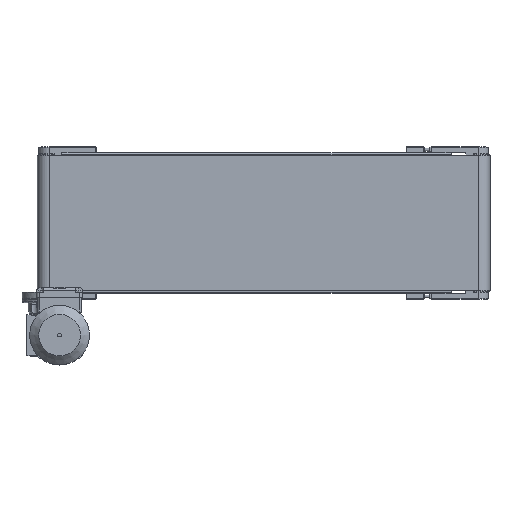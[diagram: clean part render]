
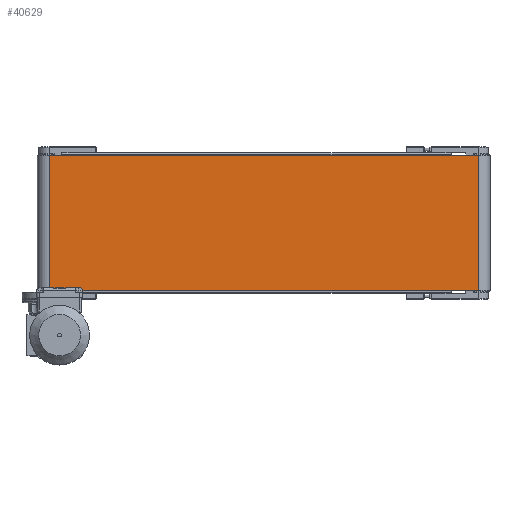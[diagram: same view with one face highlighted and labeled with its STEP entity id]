
A CAD part, top view. The second image highlights one B-rep face of the part: STEP entity #40629.
In plain terms, the highlighted planar face has unit normal (0, 0, 1).
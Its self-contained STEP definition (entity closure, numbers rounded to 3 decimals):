
#2281 = CARTESIAN_POINT ( 'NONE',  ( 974., 0., 26. ) ) ;
#4928 = CARTESIAN_POINT ( 'NONE',  ( 26., 0., 26. ) ) ;
#7820 = EDGE_CURVE ( 'NONE', #37936, #18661, #47891, .T. ) ;
#7873 = DIRECTION ( 'NONE',  ( 0., 0., -1. ) ) ;
#12509 = DIRECTION ( 'NONE',  ( 0., -1., 0. ) ) ;
#12944 = DIRECTION ( 'NONE',  ( 0., -1., 0. ) ) ;
#12946 = EDGE_CURVE ( 'NONE', #13431, #19254, #17529, .T. ) ;
#13181 = VECTOR ( 'NONE', #12944, 1000. ) ;
#13431 = VERTEX_POINT ( 'NONE', #39325 ) ;
#17529 = LINE ( 'NONE', #32817, #13181 ) ;
#18068 = EDGE_LOOP ( 'NONE', ( #37403, #33035, #21475, #21286 ) ) ;
#18288 = DIRECTION ( 'NONE',  ( 1., 0., 0. ) ) ;
#18661 = VERTEX_POINT ( 'NONE', #19025 ) ;
#19025 = CARTESIAN_POINT ( 'NONE',  ( 26., 0., 26. ) ) ;
#19254 = VERTEX_POINT ( 'NONE', #2281 ) ;
#21286 = ORIENTED_EDGE ( 'NONE', *, *, #7820, .T. ) ;
#21475 = ORIENTED_EDGE ( 'NONE', *, *, #27728, .F. ) ;
#22227 = VECTOR ( 'NONE', #42081, 1000. ) ;
#24472 = VECTOR ( 'NONE', #12509, 1000. ) ;
#27536 = FACE_OUTER_BOUND ( 'NONE', #18068, .T. ) ;
#27728 = EDGE_CURVE ( 'NONE', #37936, #13431, #37656, .T. ) ;
#27806 = CARTESIAN_POINT ( 'NONE',  ( 26., 300., 26. ) ) ;
#28073 = EDGE_CURVE ( 'NONE', #18661, #19254, #45653, .T. ) ;
#32817 = CARTESIAN_POINT ( 'NONE',  ( 974., 300., 26. ) ) ;
#33035 = ORIENTED_EDGE ( 'NONE', *, *, #12946, .F. ) ;
#37403 = ORIENTED_EDGE ( 'NONE', *, *, #28073, .T. ) ;
#37656 = LINE ( 'NONE', #37894, #48221 ) ;
#37894 = CARTESIAN_POINT ( 'NONE',  ( 26., 300., 26. ) ) ;
#37936 = VERTEX_POINT ( 'NONE', #38990 ) ;
#38990 = CARTESIAN_POINT ( 'NONE',  ( 26., 300., 26. ) ) ;
#39325 = CARTESIAN_POINT ( 'NONE',  ( 974., 300., 26. ) ) ;
#40629 = ADVANCED_FACE ( 'NONE', ( #27536 ), #49925, .F. ) ;
#42081 = DIRECTION ( 'NONE',  ( 1., 0., 0. ) ) ;
#42585 = CARTESIAN_POINT ( 'NONE',  ( 26., 300., 26. ) ) ;
#45653 = LINE ( 'NONE', #4928, #22227 ) ;
#46105 = DIRECTION ( 'NONE',  ( -1., 0., 0. ) ) ;
#47891 = LINE ( 'NONE', #27806, #24472 ) ;
#48221 = VECTOR ( 'NONE', #18288, 1000. ) ;
#49118 = AXIS2_PLACEMENT_3D ( 'NONE', #42585, #7873, #46105 ) ;
#49925 = PLANE ( 'NONE',  #49118 ) ;
